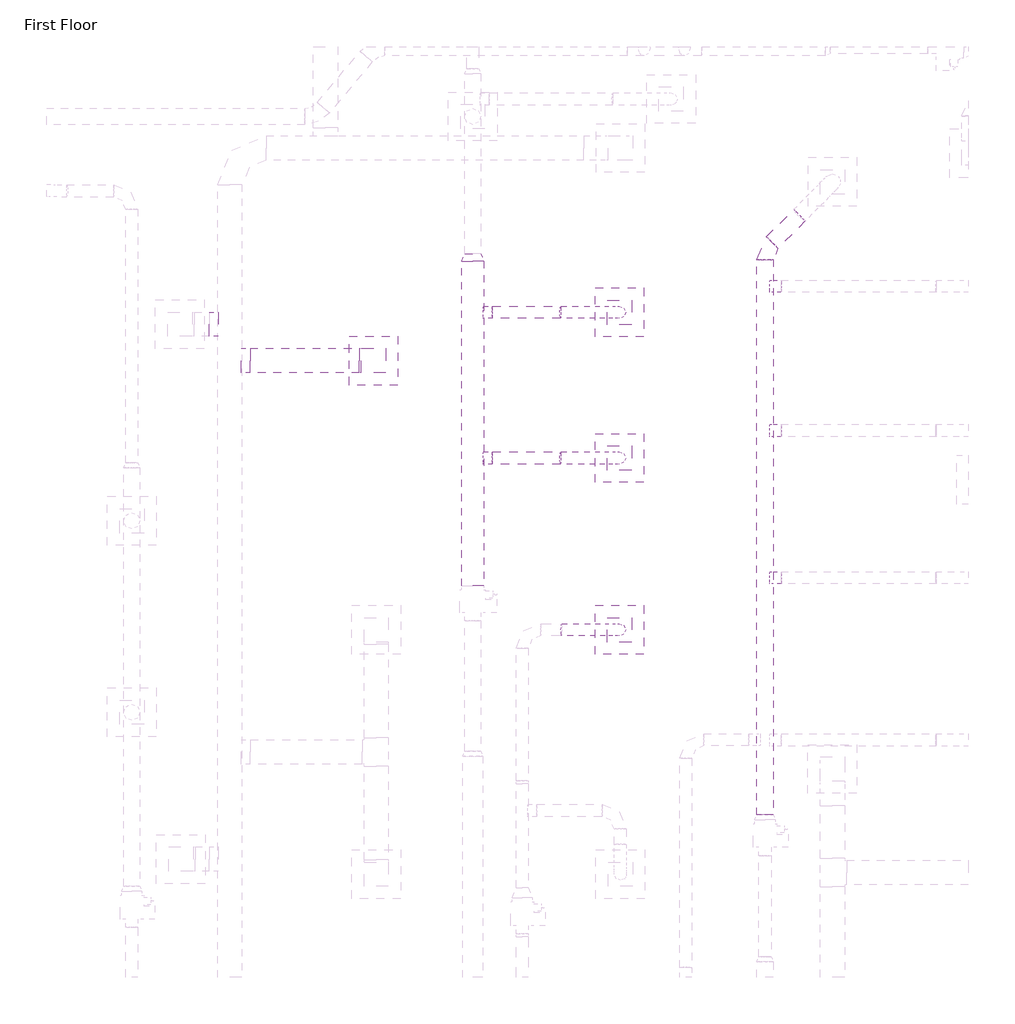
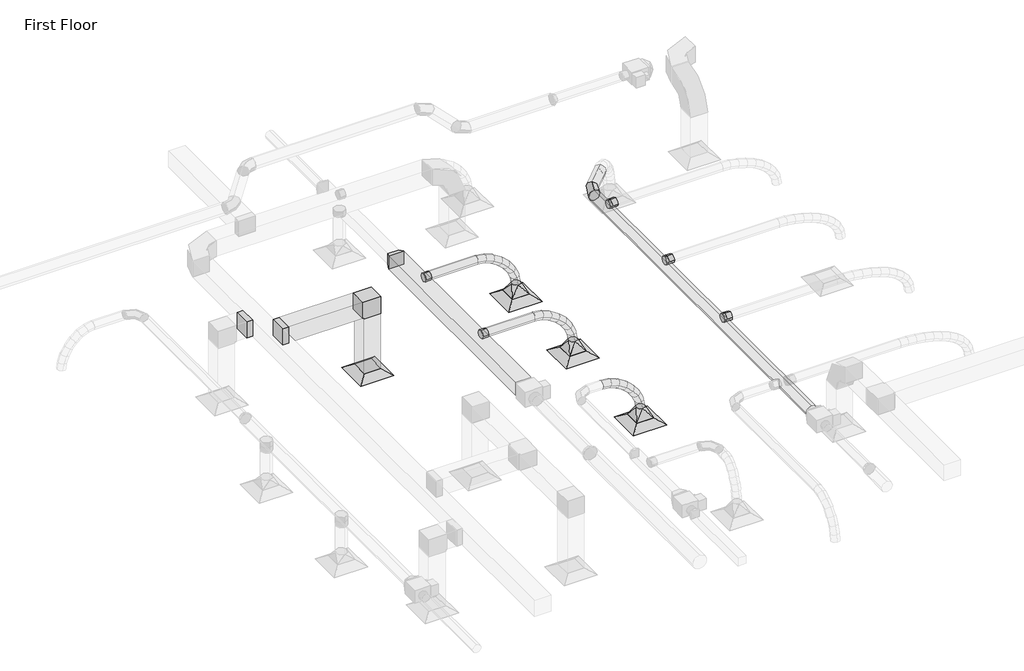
# One storey, part 27 of 61: 13 duct fittings, 10 duct segments, 4 air terminals.
"""IFC4 building model written with IfcOpenShell, lengths in millimetres."""

from ifc_helpers import new_model, si_unit, point, frame, frame_2d, origin, place, context, project, spatial, polyline, circle_curve, ellipse_curve, trimmed, segment, composite_curve, outline, extrude, transform, mapped, element, save
from ifc_brep_helpers import plane_surface, cylinder_surface, advanced_brep
from components import m_exhaust_grill_er_600_x_600_face_300_x_300_connection_ff221211, m_rectangular_elbow_mitered_standard_8eee5933, m_rectangular_takeoff_standard_c00386d1, m_rectangular_takeoff_standard_b44bfa45, m_rectangular_transition_angle_45_degree_9cf3db8e, m_rectangular_to_round_transition_angle_45_degree_8f201c83, m_round_elbow_1_5_d_f3829448, m_round_takeoff_standard_d02f3bf7, m_round_takeoff_standard_bf54a221

model = new_model("IFC4")

# Units and contexts
model_context = context("Model", 3, world=origin())
ifc_project = project(units=[si_unit("LENGTHUNIT", "METRE", prefix="MILLI")], contexts=[model_context])

# Site, building, storey
site = spatial("IfcSite", under=ifc_project)
building = spatial("IfcBuilding", under=site)
storey = spatial("IfcBuildingStorey", under=building, Name="First Floor", Elevation=0.0)

# Air terminals
placement = place(None, origin())
m_exhaust_grill_er_600_x_600_face_300_x_300_connection_shape = m_exhaust_grill_er_600_x_600_face_300_x_300_connection_ff221211(model_context)
element("IfcAirTerminal", 1, ObjectType="M_Return Register : RR-600 x 600 Face 300 x 300 Connection", at=placement, inside=storey, context=model_context, shape_type="MappedRepresentation", body=[
    mapped(m_exhaust_grill_er_600_x_600_face_300_x_300_connection_shape, transform((-13898.3480569, 21856.6472724, 2680.0), x_axis=(1.0, 0.0, 0.0), y_axis=(0.0, 1.0, 0.0), z_axis=(0.0, 0.0, 1.0))),
])
element("IfcAirTerminal", 2, ObjectType="M_Supply Diffuser : SD-600 x 600 Face 300 x 300 Connection", at=placement, inside=storey, context=model_context, shape_type="MappedRepresentation", body=[
    mapped(m_exhaust_grill_er_600_x_600_face_300_x_300_connection_shape, transform((-10877.5734417, 22450.6479697, 2680.0), x_axis=(1.0, 0.0, 0.0), y_axis=(0.0, 1.0, 0.0), z_axis=(0.0, 0.0, 1.0))),
])
element("IfcAirTerminal", 3, ObjectType="M_Supply Diffuser : SD-600 x 600 Face 300 x 300 Connection", at=placement, inside=storey, context=model_context, shape_type="MappedRepresentation", body=[
    mapped(m_exhaust_grill_er_600_x_600_face_300_x_300_connection_shape, transform((-10877.5734417, 20661.4636251, 2680.0), x_axis=(1.0, 0.0, 0.0), y_axis=(0.0, 1.0, 0.0), z_axis=(0.0, 0.0, 1.0))),
])
element("IfcAirTerminal", 4, ObjectType="M_Supply Diffuser : SD-600 x 600 Face 300 x 300 Connection", at=placement, inside=storey, context=model_context, shape_type="MappedRepresentation", body=[
    mapped(m_exhaust_grill_er_600_x_600_face_300_x_300_connection_shape, transform((-10877.5734417, 18551.0725928, 2680.0), x_axis=(1.0, 0.0, 0.0), y_axis=(0.0, 1.0, 0.0), z_axis=(0.0, 0.0, 1.0))),
])

# Duct fittings
m_rectangular_elbow_mitered_standard_shape = m_rectangular_elbow_mitered_standard_8eee5933(model_context)
element("IfcDuctFitting", 5, ObjectType="M_Rectangular Elbow - Mitered : Standard", at=placement, inside=storey, context=model_context, shape_type="MappedRepresentation", body=[
    mapped(m_rectangular_elbow_mitered_standard_shape, transform((-13898.3480569, 21856.6472724, 4000.0), x_axis=(0.0, 0.0, 1.0), y_axis=(-1.0, 0.0, 0.0), z_axis=(0.0, -1.0, 0.0))),
])
m_rectangular_takeoff_standard_shape = m_rectangular_takeoff_standard_c00386d1(model_context)
element("IfcDuctFitting", 6, ObjectType="M_Rectangular Takeoff : Standard", at=placement, inside=storey, context=model_context, shape_type="MappedRepresentation", body=[
    mapped(m_rectangular_takeoff_standard_shape, transform((-15515.3877031, 21856.6472724, 4000.0), x_axis=(1.0, 0.0, 0.0), y_axis=(0.0, -1.0, 0.0), z_axis=(0.0, 0.0, -1.0))),
])
m_rectangular_takeoff_standard_2_shape = m_rectangular_takeoff_standard_b44bfa45(model_context)
element("IfcDuctFitting", 7, ObjectType="M_Rectangular Takeoff : Standard", at=placement, inside=storey, context=model_context, shape_type="MappedRepresentation", body=[
    mapped(m_rectangular_takeoff_standard_2_shape, transform((-15815.3877031, 22304.5020999, 4000.0), x_axis=(-1.0, 0.0, 0.0), y_axis=(0.0, 1.0, 0.0), z_axis=(0.0, 0.0, -1.0))),
])
m_rectangular_transition_angle_45_degree_shape = m_rectangular_transition_angle_45_degree_9cf3db8e(model_context)
element("IfcDuctFitting", 8, ObjectType="M_Rectangular Transition - Angle : 45 Degree", at=placement, inside=storey, context=model_context, shape_type="MappedRepresentation", body=[
    mapped(m_rectangular_transition_angle_45_degree_shape, transform((-12680.2492424, 23170.3926667, 3644.1), x_axis=(0.0, -1.0, 0.0), y_axis=(1.0, 0.0, 0.0), z_axis=(0.0, 0.0, 1.0))),
])
m_rectangular_to_round_transition_angle_45_degree_shape = m_rectangular_to_round_transition_angle_45_degree_8f201c83(model_context)
element("IfcDuctFitting", 9, ObjectType="M_Rectangular to Round Transition - Angle : 45 Degree", at=placement, inside=storey, context=model_context, shape_type="MappedRepresentation", body=[
    mapped(m_rectangular_to_round_transition_angle_45_degree_shape, transform((-10877.5734417, 18551.0725928, 2781.6), x_axis=(0.0, 0.0, 1.0), y_axis=(1.0, 0.0, 0.0), z_axis=(0.0, 1.0, 0.0))),
])
element("IfcDuctFitting", 10, ObjectType="M_Rectangular to Round Transition - Angle : 45 Degree", at=placement, inside=storey, context=model_context, shape_type="MappedRepresentation", body=[
    mapped(m_rectangular_to_round_transition_angle_45_degree_shape, transform((-10877.5734417, 20661.4636251, 2781.6), x_axis=(0.0, 0.0, 1.0), y_axis=(1.0, 0.0, 0.0), z_axis=(0.0, 1.0, 0.0))),
])
element("IfcDuctFitting", 11, ObjectType="M_Rectangular to Round Transition - Angle : 45 Degree", at=placement, inside=storey, context=model_context, shape_type="MappedRepresentation", body=[
    mapped(m_rectangular_to_round_transition_angle_45_degree_shape, transform((-10877.5734417, 22450.6479697, 2781.6), x_axis=(0.0, 0.0, 1.0), y_axis=(1.0, 0.0, 0.0), z_axis=(0.0, 1.0, 0.0))),
])
m_round_elbow_1_5_d_shape = m_round_elbow_1_5_d_f3829448(model_context)
element("IfcDuctFitting", 12, ObjectType="M_Round Elbow : 1.5 D", at=placement, inside=storey, context=model_context, shape_type="MappedRepresentation", body=[
    mapped(m_round_elbow_1_5_d_shape, transform((-9089.2747853, 23220.4514222, 3619.1), x_axis=(-0.7071067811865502, -0.7071067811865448, 0.0), y_axis=(0.7071067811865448, -0.7071067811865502, 0.0), z_axis=(0.0, 0.0, 1.0))),
])
m_round_takeoff_standard_shape = m_round_takeoff_standard_d02f3bf7(model_context)
element("IfcDuctFitting", 13, ObjectType="M_Round Takeoff : Standard", at=placement, inside=storey, context=model_context, shape_type="MappedRepresentation", body=[
    mapped(m_round_takeoff_standard_shape, transform((-12542.7492424, 22450.6479697, 3644.1), x_axis=(1.0, 0.0, 0.0), y_axis=(0.0, -1.0, 0.0), z_axis=(0.0, 0.0, -1.0))),
])
element("IfcDuctFitting", 14, ObjectType="M_Round Takeoff : Standard", at=placement, inside=storey, context=model_context, shape_type="MappedRepresentation", body=[
    mapped(m_round_takeoff_standard_shape, transform((-12542.7492424, 20661.4636251, 3644.1), x_axis=(1.0, 0.0, 0.0), y_axis=(0.0, -1.0, 0.0), z_axis=(0.0, 0.0, -1.0))),
])
m_round_takeoff_standard_2_shape = m_round_takeoff_standard_bf54a221(model_context)
element("IfcDuctFitting", 15, ObjectType="M_Round Takeoff : Standard", at=placement, inside=storey, context=model_context, shape_type="MappedRepresentation", body=[
    mapped(m_round_takeoff_standard_2_shape, transform((-8989.2747853, 22770.9660121, 3619.1), x_axis=(1.0, 0.0, 0.0), y_axis=(0.0, -1.0, 0.0), z_axis=(0.0, 0.0, -1.0))),
])
element("IfcDuctFitting", 16, ObjectType="M_Round Takeoff : Standard", at=placement, inside=storey, context=model_context, shape_type="MappedRepresentation", body=[
    mapped(m_round_takeoff_standard_2_shape, transform((-8989.2747853, 20999.3260792, 3619.1), x_axis=(1.0, 0.0, 0.0), y_axis=(0.0, -1.0, 0.0), z_axis=(0.0, 0.0, -1.0))),
])
element("IfcDuctFitting", 17, ObjectType="M_Round Takeoff : Standard", at=placement, inside=storey, context=model_context, shape_type="MappedRepresentation", body=[
    mapped(m_round_takeoff_standard_2_shape, transform((-8989.2747853, 19189.4526186, 3619.1), x_axis=(1.0, 0.0, 0.0), y_axis=(0.0, -1.0, 0.0), z_axis=(0.0, 0.0, -1.0))),
])

# Duct segments
element("IfcDuctSegment", 18, ObjectType="Flex - Round", at=placement, inside=storey, context=model_context, shape_type="AdvancedBrep", body=[
    advanced_brep(
    [(-11587.2823647, 18626.0725928, 3619.1), (-11597.5475026, 18551.0725928, 3544.8058081), (-11587.2823647, 18476.0725928, 3619.1), (-11577.0172268, 18551.0725928, 3693.3941919), (-11446.5032885, 18626.0725928, 3599.6487267), (-11465.3793471, 18551.0725928, 3526.5442953), (-11446.5032885, 18476.0725928, 3599.6487267), (-11427.6272298, 18551.0725928, 3672.7531581), (-10877.5734417, 18626.0725928, 2962.6660172), (-10803.5449387, 18551.0725928, 2974.6985039), (-10877.5734417, 18476.0725928, 2962.6660172), (-10951.6019448, 18551.0725928, 2950.6335304), (-11305.6573951, 18626.0725928, 3545.3313478), (-11339.3317078, 18551.0725928, 3477.9338798), (-11305.6573951, 18476.0725928, 3545.3313478), (-11271.9830825, 18551.0725928, 3612.7288157), (-11172.6631924, 18626.0725928, 3462.2025246), (-11218.0262496, 18551.0725928, 3402.1111764), (-11172.6631924, 18476.0725928, 3462.2025246), (-11127.3001353, 18551.0725928, 3522.2938727), (-11055.439188, 18626.0725928, 3356.3169185), (-11110.858308, 18551.0725928, 3305.3089685), (-11055.439188, 18476.0725928, 3356.3169185), (-11000.0200681, 18551.0725928, 3407.3248685), (-10961.9038897, 18626.0725928, 3233.729191), (-11026.4778149, 18551.0725928, 3194.7195645), (-10961.9038897, 18476.0725928, 3233.729191), (-10897.3299645, 18551.0725928, 3272.7388175), (-10899.975805, 18626.0725928, 3100.4940034), (-10972.3456744, 18551.0725928, 3078.2569623), (-10899.975805, 18476.0725928, 3100.4940034), (-10827.6059356, 18551.0725928, 3122.7310446)],
    [
        (0, 1, circle_curve(frame((-11587.2823647, 18551.0725928, 3619.1), z_axis=(-0.9905892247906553, 0.0, 0.13686850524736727), x_axis=(0.0, 1.0, 0.0)), 75.0)),
        (1, 2, circle_curve(frame((-11587.2823647, 18551.0725928, 3619.1), z_axis=(-0.9905892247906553, 0.0, 0.13686850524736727), x_axis=(0.0, 1.0, 0.0)), 75.0)),
        (2, 3, circle_curve(frame((-11587.2823647, 18551.0725928, 3619.1), z_axis=(-0.9905892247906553, 0.0, 0.13686850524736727), x_axis=(0.0, 1.0, 0.0)), 75.0)),
        (3, 0, circle_curve(frame((-11587.2823647, 18551.0725928, 3619.1), z_axis=(-0.9905892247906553, 0.0, 0.13686850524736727), x_axis=(0.0, 1.0, 0.0)), 75.0)),
        (0, 4),
        (4, 5, ellipse_curve(frame((-11446.5032885, 18551.0725928, 3599.6487267), z_axis=(-0.9682439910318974, 0.0, 0.2500071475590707), x_axis=(-0.2500071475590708, 0.0, -0.9682439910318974)), 75.502076, 75.0)),
        (5, 1),
        (5, 6, ellipse_curve(frame((-11446.5032885, 18551.0725928, 3599.6487267), z_axis=(-0.9682439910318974, 0.0, 0.2500071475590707), x_axis=(-0.2500071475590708, 0.0, -0.9682439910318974)), 75.502076, 75.0)),
        (6, 2),
        (6, 7, ellipse_curve(frame((-11446.5032885, 18551.0725928, 3599.6487267), z_axis=(-0.9682439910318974, 0.0, 0.2500071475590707), x_axis=(-0.2500071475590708, 0.0, -0.9682439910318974)), 75.502076, 75.0)),
        (7, 3),
        (7, 4, ellipse_curve(frame((-11446.5032885, 18551.0725928, 3599.6487267), z_axis=(-0.9682439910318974, 0.0, 0.2500071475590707), x_axis=(-0.2500071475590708, 0.0, -0.9682439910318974)), 75.502076, 75.0)),
        (8, 9, circle_curve(frame((-10877.5734417, 18551.0725928, 2962.6660172), z_axis=(0.16043315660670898, 0.0, -0.9870467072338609), x_axis=(0.0, 1.0, 0.0)), 75.0)),
        (9, 10, circle_curve(frame((-10877.5734417, 18551.0725928, 2962.6660172), z_axis=(0.16043315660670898, 0.0, -0.9870467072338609), x_axis=(0.0, 1.0, 0.0)), 75.0)),
        (10, 11, circle_curve(frame((-10877.5734417, 18551.0725928, 2962.6660172), z_axis=(0.16043315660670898, 0.0, -0.9870467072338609), x_axis=(0.0, 1.0, 0.0)), 75.0)),
        (11, 8, circle_curve(frame((-10877.5734417, 18551.0725928, 2962.6660172), z_axis=(0.16043315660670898, 0.0, -0.9870467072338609), x_axis=(0.0, 1.0, 0.0)), 75.0)),
        (4, 12),
        (12, 13, ellipse_curve(frame((-11305.6573951, 18551.0725928, 3545.3313478), z_axis=(-0.8945568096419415, 0.0, 0.44695426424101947), x_axis=(-0.4469542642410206, 0.0, -0.8945568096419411)), 75.3417415, 75.0)),
        (13, 5),
        (13, 14, ellipse_curve(frame((-11305.6573951, 18551.0725928, 3545.3313478), z_axis=(-0.8945568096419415, 0.0, 0.44695426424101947), x_axis=(-0.4469542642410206, 0.0, -0.8945568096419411)), 75.3417415, 75.0)),
        (14, 6),
        (14, 15, ellipse_curve(frame((-11305.6573951, 18551.0725928, 3545.3313478), z_axis=(-0.8945568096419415, 0.0, 0.44695426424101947), x_axis=(-0.4469542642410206, 0.0, -0.8945568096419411)), 75.3417415, 75.0)),
        (15, 7),
        (15, 12, ellipse_curve(frame((-11305.6573951, 18551.0725928, 3545.3313478), z_axis=(-0.8945568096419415, 0.0, 0.44695426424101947), x_axis=(-0.4469542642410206, 0.0, -0.8945568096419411)), 75.3417415, 75.0)),
        (12, 16),
        (16, 17, ellipse_curve(frame((-11172.6631924, 18551.0725928, 3462.2025246), z_axis=(-0.7981182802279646, 0.0, 0.6025007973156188), x_axis=(-0.6025007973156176, 0.0, -0.7981182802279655)), 75.2912816, 75.0)),
        (17, 13),
        (17, 18, ellipse_curve(frame((-11172.6631924, 18551.0725928, 3462.2025246), z_axis=(-0.7981182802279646, 0.0, 0.6025007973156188), x_axis=(-0.6025007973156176, 0.0, -0.7981182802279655)), 75.2912816, 75.0)),
        (18, 14),
        (18, 19, ellipse_curve(frame((-11172.6631924, 18551.0725928, 3462.2025246), z_axis=(-0.7981182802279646, 0.0, 0.6025007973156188), x_axis=(-0.6025007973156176, 0.0, -0.7981182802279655)), 75.2912816, 75.0)),
        (19, 15),
        (19, 16, ellipse_curve(frame((-11172.6631924, 18551.0725928, 3462.2025246), z_axis=(-0.7981182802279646, 0.0, 0.6025007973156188), x_axis=(-0.6025007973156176, 0.0, -0.7981182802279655)), 75.2912816, 75.0)),
        (16, 20),
        (20, 21, ellipse_curve(frame((-11055.439188, 18551.0725928, 3356.3169185), z_axis=(-0.677217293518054, 0.0, 0.7357830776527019), x_axis=(-0.7357830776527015, 0.0, -0.6772172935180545)), 75.3199165, 75.0)),
        (21, 17),
        (21, 22, ellipse_curve(frame((-11055.439188, 18551.0725928, 3356.3169185), z_axis=(-0.677217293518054, 0.0, 0.7357830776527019), x_axis=(-0.7357830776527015, 0.0, -0.6772172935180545)), 75.3199165, 75.0)),
        (22, 18),
        (22, 23, ellipse_curve(frame((-11055.439188, 18551.0725928, 3356.3169185), z_axis=(-0.677217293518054, 0.0, 0.7357830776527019), x_axis=(-0.7357830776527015, 0.0, -0.6772172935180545)), 75.3199165, 75.0)),
        (23, 19),
        (23, 20, ellipse_curve(frame((-11055.439188, 18551.0725928, 3356.3169185), z_axis=(-0.677217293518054, 0.0, 0.7357830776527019), x_axis=(-0.7357830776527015, 0.0, -0.6772172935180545)), 75.3199165, 75.0)),
        (20, 24),
        (24, 25, ellipse_curve(frame((-10961.9038897, 18551.0725928, 3233.729191), z_axis=(-0.5170788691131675, 0.0, 0.8559377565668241), x_axis=(-0.8559377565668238, 0.0, -0.5170788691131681)), 75.4423142, 75.0)),
        (25, 21),
        (25, 26, ellipse_curve(frame((-10961.9038897, 18551.0725928, 3233.729191), z_axis=(-0.5170788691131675, 0.0, 0.8559377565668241), x_axis=(-0.8559377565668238, 0.0, -0.5170788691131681)), 75.4423142, 75.0)),
        (26, 22),
        (26, 27, ellipse_curve(frame((-10961.9038897, 18551.0725928, 3233.729191), z_axis=(-0.5170788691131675, 0.0, 0.8559377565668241), x_axis=(-0.8559377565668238, 0.0, -0.5170788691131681)), 75.4423142, 75.0)),
        (27, 23),
        (27, 24, ellipse_curve(frame((-10961.9038897, 18551.0725928, 3233.729191), z_axis=(-0.5170788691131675, 0.0, 0.8559377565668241), x_axis=(-0.8559377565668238, 0.0, -0.5170788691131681)), 75.4423142, 75.0)),
        (24, 28),
        (28, 29, ellipse_curve(frame((-10899.975805, 18551.0725928, 3100.4940034), z_axis=(-0.2937164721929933, 0.0, 0.9558925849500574), x_axis=(-0.9558925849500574, 0.0, -0.29371647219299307)), 75.7092068, 75.0)),
        (29, 25),
        (29, 30, ellipse_curve(frame((-10899.975805, 18551.0725928, 3100.4940034), z_axis=(-0.2937164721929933, 0.0, 0.9558925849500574), x_axis=(-0.9558925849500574, 0.0, -0.29371647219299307)), 75.7092068, 75.0)),
        (30, 26),
        (30, 31, ellipse_curve(frame((-10899.975805, 18551.0725928, 3100.4940034), z_axis=(-0.2937164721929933, 0.0, 0.9558925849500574), x_axis=(-0.9558925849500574, 0.0, -0.29371647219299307)), 75.7092068, 75.0)),
        (31, 27),
        (31, 28, ellipse_curve(frame((-10899.975805, 18551.0725928, 3100.4940034), z_axis=(-0.2937164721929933, 0.0, 0.9558925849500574), x_axis=(-0.9558925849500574, 0.0, -0.29371647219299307)), 75.7092068, 75.0)),
        (28, 8),
        (11, 29),
        (10, 30),
        (9, 31),
    ],
    [
        plane_surface(frame((-11587.2823647, 18626.0725928, 3619.1), z_axis=(-0.9905892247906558, 0.0, 0.13686850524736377), x_axis=(0.13686850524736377, 0.0, 0.9905892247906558))),
        cylinder_surface(frame((-11587.2823647, 18551.0725928, 3619.1), z_axis=(-0.9905892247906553, 0.0, 0.13686850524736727), x_axis=(0.0, 1.0, 0.0)), 75.0),
        plane_surface(frame((-10877.5734417, 18626.0725928, 2962.6660172), z_axis=(0.1604331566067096, 0.0, -0.9870467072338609), x_axis=(0.9870467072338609, 0.0, 0.1604331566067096))),
        cylinder_surface(frame((-11446.5032885, 18551.0725928, 3599.6487267), z_axis=(-0.9330214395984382, 0.0, 0.3598207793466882), x_axis=(0.0, 1.0, 0.0)), 75.0),
        cylinder_surface(frame((-11305.6573951, 18551.0725928, 3545.3313478), z_axis=(-0.8479769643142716, 0.0, 0.5300330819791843), x_axis=(0.0, 1.0, 0.0)), 75.0),
        cylinder_surface(frame((-11172.6631924, 18551.0725928, 3462.2025246), z_axis=(-0.7420841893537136, 0.0, 0.6703066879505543), x_axis=(0.0, 1.0, 0.0)), 75.0),
        cylinder_surface(frame((-11055.439188, 18551.0725928, 3356.3169185), z_axis=(-0.6065975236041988, 0.0, 0.7950090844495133), x_axis=(0.0, 1.0, 0.0)), 75.0),
        cylinder_surface(frame((-10961.9038897, 18551.0725928, 3233.729191), z_axis=(-0.4214970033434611, 0.0, 0.9068297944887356), x_axis=(0.0, 1.0, 0.0)), 75.0),
        cylinder_surface(frame((-10899.975805, 18551.0725928, 3100.4940034), z_axis=(-0.16043315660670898, 0.0, 0.9870467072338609), x_axis=(0.0, 1.0, 0.0)), 75.0),
    ],
    [
        (0, [[1, 2, 3, 4]]),
        (1, [[-1, 5, 6, 7]]),
        (1, [[-2, -7, 8, 9]]),
        (1, [[-3, -9, 10, 11]]),
        (1, [[-4, -11, 12, -5]]),
        (2, [[13, 14, 15, 16]]),
        (3, [[-6, 17, 18, 19]]),
        (3, [[-8, -19, 20, 21]]),
        (3, [[-10, -21, 22, 23]]),
        (3, [[-12, -23, 24, -17]]),
        (4, [[-18, 25, 26, 27]]),
        (4, [[-20, -27, 28, 29]]),
        (4, [[-22, -29, 30, 31]]),
        (4, [[-24, -31, 32, -25]]),
        (5, [[-26, 33, 34, 35]]),
        (5, [[-28, -35, 36, 37]]),
        (5, [[-30, -37, 38, 39]]),
        (5, [[-32, -39, 40, -33]]),
        (6, [[-34, 41, 42, 43]]),
        (6, [[-36, -43, 44, 45]]),
        (6, [[-38, -45, 46, 47]]),
        (6, [[-40, -47, 48, -41]]),
        (7, [[-42, 49, 50, 51]]),
        (7, [[-44, -51, 52, 53]]),
        (7, [[-46, -53, 54, 55]]),
        (7, [[-48, -55, 56, -49]]),
        (8, [[-50, 57, -16, 58]]),
        (8, [[-52, -58, -15, 59]]),
        (8, [[-54, -59, -14, 60]]),
        (8, [[-56, -60, -13, -57]]),
    ],
),
])
element("IfcDuctSegment", 19, ObjectType="Flex - Round", at=placement, inside=storey, context=model_context, shape_type="AdvancedBrep", body=[
    advanced_brep(
    [(-11600.2492424, 20736.4636251, 3644.1), (-11610.7347685, 20661.4636251, 3569.8365922), (-11600.2492424, 20586.4636251, 3644.1), (-11589.7637164, 20661.4636251, 3718.3634078), (-11455.9662838, 20736.4636251, 3623.7281538), (-11475.2555296, 20661.4636251, 3550.7077758), (-11455.9662838, 20586.4636251, 3623.7281538), (-11436.677038, 20661.4636251, 3696.7485318), (-10877.5734417, 20736.4636251, 2962.6660172), (-10803.510245, 20661.4636251, 2974.4830764), (-10877.5734417, 20586.4636251, 2962.6660172), (-10951.6366385, 20661.4636251, 2950.848958), (-11312.1846903, 20736.4636251, 3566.9226354), (-11346.5221294, 20661.4636251, 3499.8475276), (-11312.1846903, 20586.4636251, 3566.9226354), (-11277.8472512, 20661.4636251, 3633.9977432), (-11176.8123545, 20736.4636251, 3480.148475), (-11222.8927562, 20661.4636251, 3420.600649), (-11176.8123545, 20586.4636251, 3480.148475), (-11130.7319528, 20661.4636251, 3539.696301), (-11057.7571691, 20736.4636251, 3369.8707027), (-11113.7846087, 20661.4636251, 3319.5365634), (-11057.7571691, 20586.4636251, 3369.8707027), (-11001.7297295, 20661.4636251, 3420.204842), (-10962.9270268, 20736.4636251, 3242.5543489), (-11027.8751645, 20661.4636251, 3204.1968948), (-10962.9270268, 20586.4636251, 3242.5543489), (-10897.978889, 20661.4636251, 3280.911803), (-10900.2298201, 20736.4636251, 3104.6644436), (-10972.6968114, 20661.4636251, 3082.8431969), (-10900.2298201, 20586.4636251, 3104.6644436), (-10827.7628288, 20661.4636251, 3126.4856904)],
    [
        (0, 1, circle_curve(frame((-11600.2492424, 20661.4636251, 3644.1), z_axis=(-0.9901787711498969, 0.0, 0.1398070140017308), x_axis=(0.0, 1.0, 0.0)), 75.0)),
        (1, 2, circle_curve(frame((-11600.2492424, 20661.4636251, 3644.1), z_axis=(-0.9901787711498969, 0.0, 0.1398070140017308), x_axis=(0.0, 1.0, 0.0)), 75.0)),
        (2, 3, circle_curve(frame((-11600.2492424, 20661.4636251, 3644.1), z_axis=(-0.9901787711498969, 0.0, 0.1398070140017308), x_axis=(0.0, 1.0, 0.0)), 75.0)),
        (3, 0, circle_curve(frame((-11600.2492424, 20661.4636251, 3644.1), z_axis=(-0.9901787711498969, 0.0, 0.1398070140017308), x_axis=(0.0, 1.0, 0.0)), 75.0)),
        (0, 4),
        (4, 5, ellipse_curve(frame((-11455.9662838, 20661.4636251, 3623.7281538), z_axis=(-0.9668350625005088, 0.0, 0.25540156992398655), x_axis=(-0.25540156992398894, 0.0, -0.9668350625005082)), 75.5251654, 75.0)),
        (5, 1),
        (5, 6, ellipse_curve(frame((-11455.9662838, 20661.4636251, 3623.7281538), z_axis=(-0.9668350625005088, 0.0, 0.25540156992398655), x_axis=(-0.25540156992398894, 0.0, -0.9668350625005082)), 75.5251654, 75.0)),
        (6, 2),
        (6, 7, ellipse_curve(frame((-11455.9662838, 20661.4636251, 3623.7281538), z_axis=(-0.9668350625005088, 0.0, 0.25540156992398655), x_axis=(-0.25540156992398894, 0.0, -0.9668350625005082)), 75.5251654, 75.0)),
        (7, 3),
        (7, 4, ellipse_curve(frame((-11455.9662838, 20661.4636251, 3623.7281538), z_axis=(-0.9668350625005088, 0.0, 0.25540156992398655), x_axis=(-0.25540156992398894, 0.0, -0.9668350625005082)), 75.5251654, 75.0)),
        (8, 9, circle_curve(frame((-10877.5734417, 20661.4636251, 2962.6660172), z_axis=(0.15756078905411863, 0.0, -0.9875092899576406), x_axis=(0.0, 1.0, 0.0)), 75.0)),
        (9, 10, circle_curve(frame((-10877.5734417, 20661.4636251, 2962.6660172), z_axis=(0.15756078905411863, 0.0, -0.9875092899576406), x_axis=(0.0, 1.0, 0.0)), 75.0)),
        (10, 11, circle_curve(frame((-10877.5734417, 20661.4636251, 2962.6660172), z_axis=(0.15756078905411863, 0.0, -0.9875092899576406), x_axis=(0.0, 1.0, 0.0)), 75.0)),
        (11, 8, circle_curve(frame((-10877.5734417, 20661.4636251, 2962.6660172), z_axis=(0.15756078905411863, 0.0, -0.9875092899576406), x_axis=(0.0, 1.0, 0.0)), 75.0)),
        (4, 12),
        (12, 13, ellipse_curve(frame((-11312.1846903, 20661.4636251, 3566.9226354), z_axis=(-0.8901408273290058, 0.0, 0.45568553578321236), x_axis=(-0.45568553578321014, 0.0, -0.8901408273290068)), 75.3533663, 75.0)),
        (13, 5),
        (13, 14, ellipse_curve(frame((-11312.1846903, 20661.4636251, 3566.9226354), z_axis=(-0.8901408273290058, 0.0, 0.45568553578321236), x_axis=(-0.45568553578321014, 0.0, -0.8901408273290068)), 75.3533663, 75.0)),
        (14, 6),
        (14, 15, ellipse_curve(frame((-11312.1846903, 20661.4636251, 3566.9226354), z_axis=(-0.8901408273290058, 0.0, 0.45568553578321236), x_axis=(-0.45568553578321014, 0.0, -0.8901408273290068)), 75.3533663, 75.0)),
        (15, 7),
        (15, 12, ellipse_curve(frame((-11312.1846903, 20661.4636251, 3566.9226354), z_axis=(-0.8901408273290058, 0.0, 0.45568553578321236), x_axis=(-0.45568553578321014, 0.0, -0.8901408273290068)), 75.3533663, 75.0)),
        (12, 16),
        (16, 17, ellipse_curve(frame((-11176.8123545, 20661.4636251, 3480.148475), z_axis=(-0.7908595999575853, 0.0, 0.6119976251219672), x_axis=(-0.6119976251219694, 0.0, -0.7908595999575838)), 75.2950662, 75.0)),
        (17, 13),
        (17, 18, ellipse_curve(frame((-11176.8123545, 20661.4636251, 3480.148475), z_axis=(-0.7908595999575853, 0.0, 0.6119976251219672), x_axis=(-0.6119976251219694, 0.0, -0.7908595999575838)), 75.2950662, 75.0)),
        (18, 14),
        (18, 19, ellipse_curve(frame((-11176.8123545, 20661.4636251, 3480.148475), z_axis=(-0.7908595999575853, 0.0, 0.6119976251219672), x_axis=(-0.6119976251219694, 0.0, -0.7908595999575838)), 75.2950662, 75.0)),
        (19, 15),
        (19, 16, ellipse_curve(frame((-11176.8123545, 20661.4636251, 3480.148475), z_axis=(-0.7908595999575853, 0.0, 0.6119976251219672), x_axis=(-0.6119976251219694, 0.0, -0.7908595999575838)), 75.2950662, 75.0)),
        (16, 20),
        (20, 21, ellipse_curve(frame((-11057.7571691, 20661.4636251, 3369.8707027), z_axis=(-0.6683001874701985, 0.0, 0.7438916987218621), x_axis=(-0.7438916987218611, 0.0, -0.6683001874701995)), 75.3166619, 75.0)),
        (21, 17),
        (21, 22, ellipse_curve(frame((-11057.7571691, 20661.4636251, 3369.8707027), z_axis=(-0.6683001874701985, 0.0, 0.7438916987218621), x_axis=(-0.7438916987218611, 0.0, -0.6683001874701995)), 75.3166619, 75.0)),
        (22, 18),
        (22, 23, ellipse_curve(frame((-11057.7571691, 20661.4636251, 3369.8707027), z_axis=(-0.6683001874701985, 0.0, 0.7438916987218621), x_axis=(-0.7438916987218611, 0.0, -0.6683001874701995)), 75.3166619, 75.0)),
        (23, 19),
        (23, 20, ellipse_curve(frame((-11057.7571691, 20661.4636251, 3369.8707027), z_axis=(-0.6683001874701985, 0.0, 0.7438916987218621), x_axis=(-0.7438916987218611, 0.0, -0.6683001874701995)), 75.3166619, 75.0)),
        (20, 24),
        (24, 25, ellipse_curve(frame((-10962.9270268, 20661.4636251, 3242.5543489), z_axis=(-0.5085230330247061, 0.0, 0.861048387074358), x_axis=(-0.8610483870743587, 0.0, -0.5085230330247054)), 75.4291381, 75.0)),
        (25, 21),
        (25, 26, ellipse_curve(frame((-10962.9270268, 20661.4636251, 3242.5543489), z_axis=(-0.5085230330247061, 0.0, 0.861048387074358), x_axis=(-0.8610483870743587, 0.0, -0.5085230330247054)), 75.4291381, 75.0)),
        (26, 22),
        (26, 27, ellipse_curve(frame((-10962.9270268, 20661.4636251, 3242.5543489), z_axis=(-0.5085230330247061, 0.0, 0.861048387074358), x_axis=(-0.8610483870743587, 0.0, -0.5085230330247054)), 75.4291381, 75.0)),
        (27, 23),
        (27, 24, ellipse_curve(frame((-10962.9270268, 20661.4636251, 3242.5543489), z_axis=(-0.5085230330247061, 0.0, 0.861048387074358), x_axis=(-0.8610483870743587, 0.0, -0.5085230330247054)), 75.4291381, 75.0)),
        (24, 28),
        (28, 29, ellipse_curve(frame((-10900.2298201, 20661.4636251, 3104.6644436), z_axis=(-0.28833145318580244, 0.0, 0.9575306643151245), x_axis=(-0.9575306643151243, 0.0, -0.28833145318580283)), 75.6811181, 75.0)),
        (29, 25),
        (29, 30, ellipse_curve(frame((-10900.2298201, 20661.4636251, 3104.6644436), z_axis=(-0.28833145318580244, 0.0, 0.9575306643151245), x_axis=(-0.9575306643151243, 0.0, -0.28833145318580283)), 75.6811181, 75.0)),
        (30, 26),
        (30, 31, ellipse_curve(frame((-10900.2298201, 20661.4636251, 3104.6644436), z_axis=(-0.28833145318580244, 0.0, 0.9575306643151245), x_axis=(-0.9575306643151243, 0.0, -0.28833145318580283)), 75.6811181, 75.0)),
        (31, 27),
        (31, 28, ellipse_curve(frame((-10900.2298201, 20661.4636251, 3104.6644436), z_axis=(-0.28833145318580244, 0.0, 0.9575306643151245), x_axis=(-0.9575306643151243, 0.0, -0.28833145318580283)), 75.6811181, 75.0)),
        (28, 8),
        (11, 29),
        (10, 30),
        (9, 31),
    ],
    [
        plane_surface(frame((-11600.2492424, 20736.4636251, 3644.1), z_axis=(-0.9901787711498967, 0.0, 0.13980701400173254), x_axis=(0.13980701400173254, 0.0, 0.9901787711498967))),
        cylinder_surface(frame((-11600.2492424, 20661.4636251, 3644.1), z_axis=(-0.9901787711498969, 0.0, 0.1398070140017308), x_axis=(0.0, 1.0, 0.0)), 75.0),
        plane_surface(frame((-10877.5734417, 20736.4636251, 2962.6660172), z_axis=(0.15756078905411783, 0.0, -0.9875092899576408), x_axis=(0.9875092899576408, 0.0, 0.15756078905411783))),
        cylinder_surface(frame((-11455.9662838, 20661.4636251, 3623.7281538), z_axis=(-0.930045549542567, 0.0, 0.36744424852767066), x_axis=(0.0, 1.0, 0.0)), 75.0),
        cylinder_surface(frame((-11312.1846903, 20661.4636251, 3566.9226354), z_axis=(-0.8418875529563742, 0.0, 0.5396529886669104), x_axis=(0.0, 1.0, 0.0)), 75.0),
        cylinder_surface(frame((-11176.8123545, 20661.4636251, 3480.148475), z_axis=(-0.7336332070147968, 0.0, 0.6795456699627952), x_axis=(0.0, 1.0, 0.0)), 75.0),
        cylinder_surface(frame((-11057.7571691, 20661.4636251, 3369.8707027), z_axis=(-0.5973475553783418, 0.0, 0.801982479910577), x_axis=(0.0, 1.0, 0.0)), 75.0),
        cylinder_surface(frame((-10962.9270268, 20661.4636251, 3242.5543489), z_axis=(-0.413912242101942, 0.0, 0.9103167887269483), x_axis=(0.0, 1.0, 0.0)), 75.0),
        cylinder_surface(frame((-10900.2298201, 20661.4636251, 3104.6644436), z_axis=(-0.15756078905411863, 0.0, 0.9875092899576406), x_axis=(0.0, 1.0, 0.0)), 75.0),
    ],
    [
        (0, [[1, 2, 3, 4]]),
        (1, [[-1, 5, 6, 7]]),
        (1, [[-2, -7, 8, 9]]),
        (1, [[-3, -9, 10, 11]]),
        (1, [[-4, -11, 12, -5]]),
        (2, [[13, 14, 15, 16]]),
        (3, [[-6, 17, 18, 19]]),
        (3, [[-8, -19, 20, 21]]),
        (3, [[-10, -21, 22, 23]]),
        (3, [[-12, -23, 24, -17]]),
        (4, [[-18, 25, 26, 27]]),
        (4, [[-20, -27, 28, 29]]),
        (4, [[-22, -29, 30, 31]]),
        (4, [[-24, -31, 32, -25]]),
        (5, [[-26, 33, 34, 35]]),
        (5, [[-28, -35, 36, 37]]),
        (5, [[-30, -37, 38, 39]]),
        (5, [[-32, -39, 40, -33]]),
        (6, [[-34, 41, 42, 43]]),
        (6, [[-36, -43, 44, 45]]),
        (6, [[-38, -45, 46, 47]]),
        (6, [[-40, -47, 48, -41]]),
        (7, [[-42, 49, 50, 51]]),
        (7, [[-44, -51, 52, 53]]),
        (7, [[-46, -53, 54, 55]]),
        (7, [[-48, -55, 56, -49]]),
        (8, [[-50, 57, -16, 58]]),
        (8, [[-52, -58, -15, 59]]),
        (8, [[-54, -59, -14, 60]]),
        (8, [[-56, -60, -13, -57]]),
    ],
),
])
element("IfcDuctSegment", 20, ObjectType="Flex - Round", at=placement, inside=storey, context=model_context, shape_type="AdvancedBrep", body=[
    advanced_brep(
    [(-11600.2492424, 22525.6479697, 3644.1), (-11610.7347685, 22450.6479697, 3569.8365922), (-11600.2492424, 22375.6479697, 3644.1), (-11589.7637164, 22450.6479697, 3718.3634078), (-11455.9662838, 22525.6479697, 3623.7281538), (-11475.2555296, 22450.6479697, 3550.7077758), (-11455.9662838, 22375.6479697, 3623.7281538), (-11436.677038, 22450.6479697, 3696.7485318), (-10877.5734417, 22525.6479697, 2962.6660172), (-10803.510245, 22450.6479697, 2974.4830764), (-10877.5734417, 22375.6479697, 2962.6660172), (-10951.6366385, 22450.6479697, 2950.848958), (-11312.1846903, 22525.6479697, 3566.9226354), (-11346.5221294, 22450.6479697, 3499.8475276), (-11312.1846903, 22375.6479697, 3566.9226354), (-11277.8472512, 22450.6479697, 3633.9977432), (-11176.8123545, 22525.6479697, 3480.148475), (-11222.8927562, 22450.6479697, 3420.600649), (-11176.8123545, 22375.6479697, 3480.148475), (-11130.7319528, 22450.6479697, 3539.696301), (-11057.7571691, 22525.6479697, 3369.8707027), (-11113.7846087, 22450.6479697, 3319.5365634), (-11057.7571691, 22375.6479697, 3369.8707027), (-11001.7297295, 22450.6479697, 3420.204842), (-10962.9270268, 22525.6479697, 3242.5543489), (-11027.8751645, 22450.6479697, 3204.1968948), (-10962.9270268, 22375.6479697, 3242.5543489), (-10897.978889, 22450.6479697, 3280.911803), (-10900.2298201, 22525.6479697, 3104.6644436), (-10972.6968114, 22450.6479697, 3082.8431969), (-10900.2298201, 22375.6479697, 3104.6644436), (-10827.7628288, 22450.6479697, 3126.4856904)],
    [
        (0, 1, circle_curve(frame((-11600.2492424, 22450.6479697, 3644.1), z_axis=(-0.9901787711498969, 0.0, 0.1398070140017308), x_axis=(0.0, 1.0, 0.0)), 75.0)),
        (1, 2, circle_curve(frame((-11600.2492424, 22450.6479697, 3644.1), z_axis=(-0.9901787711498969, 0.0, 0.1398070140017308), x_axis=(0.0, 1.0, 0.0)), 75.0)),
        (2, 3, circle_curve(frame((-11600.2492424, 22450.6479697, 3644.1), z_axis=(-0.9901787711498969, 0.0, 0.1398070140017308), x_axis=(0.0, 1.0, 0.0)), 75.0)),
        (3, 0, circle_curve(frame((-11600.2492424, 22450.6479697, 3644.1), z_axis=(-0.9901787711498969, 0.0, 0.1398070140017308), x_axis=(0.0, 1.0, 0.0)), 75.0)),
        (0, 4),
        (4, 5, ellipse_curve(frame((-11455.9662838, 22450.6479697, 3623.7281538), z_axis=(-0.9668350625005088, 0.0, 0.25540156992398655), x_axis=(-0.25540156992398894, 0.0, -0.9668350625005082)), 75.5251654, 75.0)),
        (5, 1),
        (5, 6, ellipse_curve(frame((-11455.9662838, 22450.6479697, 3623.7281538), z_axis=(-0.9668350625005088, 0.0, 0.25540156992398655), x_axis=(-0.25540156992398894, 0.0, -0.9668350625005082)), 75.5251654, 75.0)),
        (6, 2),
        (6, 7, ellipse_curve(frame((-11455.9662838, 22450.6479697, 3623.7281538), z_axis=(-0.9668350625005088, 0.0, 0.25540156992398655), x_axis=(-0.25540156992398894, 0.0, -0.9668350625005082)), 75.5251654, 75.0)),
        (7, 3),
        (7, 4, ellipse_curve(frame((-11455.9662838, 22450.6479697, 3623.7281538), z_axis=(-0.9668350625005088, 0.0, 0.25540156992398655), x_axis=(-0.25540156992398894, 0.0, -0.9668350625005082)), 75.5251654, 75.0)),
        (8, 9, circle_curve(frame((-10877.5734417, 22450.6479697, 2962.6660172), z_axis=(0.15756078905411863, 0.0, -0.9875092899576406), x_axis=(0.0, 1.0, 0.0)), 75.0)),
        (9, 10, circle_curve(frame((-10877.5734417, 22450.6479697, 2962.6660172), z_axis=(0.15756078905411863, 0.0, -0.9875092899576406), x_axis=(0.0, 1.0, 0.0)), 75.0)),
        (10, 11, circle_curve(frame((-10877.5734417, 22450.6479697, 2962.6660172), z_axis=(0.15756078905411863, 0.0, -0.9875092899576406), x_axis=(0.0, 1.0, 0.0)), 75.0)),
        (11, 8, circle_curve(frame((-10877.5734417, 22450.6479697, 2962.6660172), z_axis=(0.15756078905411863, 0.0, -0.9875092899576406), x_axis=(0.0, 1.0, 0.0)), 75.0)),
        (4, 12),
        (12, 13, ellipse_curve(frame((-11312.1846903, 22450.6479697, 3566.9226354), z_axis=(-0.8901408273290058, 0.0, 0.45568553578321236), x_axis=(-0.45568553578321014, 0.0, -0.8901408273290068)), 75.3533663, 75.0)),
        (13, 5),
        (13, 14, ellipse_curve(frame((-11312.1846903, 22450.6479697, 3566.9226354), z_axis=(-0.8901408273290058, 0.0, 0.45568553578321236), x_axis=(-0.45568553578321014, 0.0, -0.8901408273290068)), 75.3533663, 75.0)),
        (14, 6),
        (14, 15, ellipse_curve(frame((-11312.1846903, 22450.6479697, 3566.9226354), z_axis=(-0.8901408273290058, 0.0, 0.45568553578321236), x_axis=(-0.45568553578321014, 0.0, -0.8901408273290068)), 75.3533663, 75.0)),
        (15, 7),
        (15, 12, ellipse_curve(frame((-11312.1846903, 22450.6479697, 3566.9226354), z_axis=(-0.8901408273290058, 0.0, 0.45568553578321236), x_axis=(-0.45568553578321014, 0.0, -0.8901408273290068)), 75.3533663, 75.0)),
        (12, 16),
        (16, 17, ellipse_curve(frame((-11176.8123545, 22450.6479697, 3480.148475), z_axis=(-0.7908595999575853, 0.0, 0.6119976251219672), x_axis=(-0.6119976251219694, 0.0, -0.7908595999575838)), 75.2950662, 75.0)),
        (17, 13),
        (17, 18, ellipse_curve(frame((-11176.8123545, 22450.6479697, 3480.148475), z_axis=(-0.7908595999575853, 0.0, 0.6119976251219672), x_axis=(-0.6119976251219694, 0.0, -0.7908595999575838)), 75.2950662, 75.0)),
        (18, 14),
        (18, 19, ellipse_curve(frame((-11176.8123545, 22450.6479697, 3480.148475), z_axis=(-0.7908595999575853, 0.0, 0.6119976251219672), x_axis=(-0.6119976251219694, 0.0, -0.7908595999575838)), 75.2950662, 75.0)),
        (19, 15),
        (19, 16, ellipse_curve(frame((-11176.8123545, 22450.6479697, 3480.148475), z_axis=(-0.7908595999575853, 0.0, 0.6119976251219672), x_axis=(-0.6119976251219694, 0.0, -0.7908595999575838)), 75.2950662, 75.0)),
        (16, 20),
        (20, 21, ellipse_curve(frame((-11057.7571691, 22450.6479697, 3369.8707027), z_axis=(-0.6683001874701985, 0.0, 0.7438916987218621), x_axis=(-0.7438916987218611, 0.0, -0.6683001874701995)), 75.3166619, 75.0)),
        (21, 17),
        (21, 22, ellipse_curve(frame((-11057.7571691, 22450.6479697, 3369.8707027), z_axis=(-0.6683001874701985, 0.0, 0.7438916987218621), x_axis=(-0.7438916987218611, 0.0, -0.6683001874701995)), 75.3166619, 75.0)),
        (22, 18),
        (22, 23, ellipse_curve(frame((-11057.7571691, 22450.6479697, 3369.8707027), z_axis=(-0.6683001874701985, 0.0, 0.7438916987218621), x_axis=(-0.7438916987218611, 0.0, -0.6683001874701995)), 75.3166619, 75.0)),
        (23, 19),
        (23, 20, ellipse_curve(frame((-11057.7571691, 22450.6479697, 3369.8707027), z_axis=(-0.6683001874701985, 0.0, 0.7438916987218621), x_axis=(-0.7438916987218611, 0.0, -0.6683001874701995)), 75.3166619, 75.0)),
        (20, 24),
        (24, 25, ellipse_curve(frame((-10962.9270268, 22450.6479697, 3242.5543489), z_axis=(-0.5085230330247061, 0.0, 0.861048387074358), x_axis=(-0.8610483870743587, 0.0, -0.5085230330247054)), 75.4291381, 75.0)),
        (25, 21),
        (25, 26, ellipse_curve(frame((-10962.9270268, 22450.6479697, 3242.5543489), z_axis=(-0.5085230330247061, 0.0, 0.861048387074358), x_axis=(-0.8610483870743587, 0.0, -0.5085230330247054)), 75.4291381, 75.0)),
        (26, 22),
        (26, 27, ellipse_curve(frame((-10962.9270268, 22450.6479697, 3242.5543489), z_axis=(-0.5085230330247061, 0.0, 0.861048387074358), x_axis=(-0.8610483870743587, 0.0, -0.5085230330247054)), 75.4291381, 75.0)),
        (27, 23),
        (27, 24, ellipse_curve(frame((-10962.9270268, 22450.6479697, 3242.5543489), z_axis=(-0.5085230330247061, 0.0, 0.861048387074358), x_axis=(-0.8610483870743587, 0.0, -0.5085230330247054)), 75.4291381, 75.0)),
        (24, 28),
        (28, 29, ellipse_curve(frame((-10900.2298201, 22450.6479697, 3104.6644436), z_axis=(-0.28833145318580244, 0.0, 0.9575306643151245), x_axis=(-0.9575306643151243, 0.0, -0.28833145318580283)), 75.6811181, 75.0)),
        (29, 25),
        (29, 30, ellipse_curve(frame((-10900.2298201, 22450.6479697, 3104.6644436), z_axis=(-0.28833145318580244, 0.0, 0.9575306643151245), x_axis=(-0.9575306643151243, 0.0, -0.28833145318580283)), 75.6811181, 75.0)),
        (30, 26),
        (30, 31, ellipse_curve(frame((-10900.2298201, 22450.6479697, 3104.6644436), z_axis=(-0.28833145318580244, 0.0, 0.9575306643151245), x_axis=(-0.9575306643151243, 0.0, -0.28833145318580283)), 75.6811181, 75.0)),
        (31, 27),
        (31, 28, ellipse_curve(frame((-10900.2298201, 22450.6479697, 3104.6644436), z_axis=(-0.28833145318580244, 0.0, 0.9575306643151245), x_axis=(-0.9575306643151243, 0.0, -0.28833145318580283)), 75.6811181, 75.0)),
        (28, 8),
        (11, 29),
        (10, 30),
        (9, 31),
    ],
    [
        plane_surface(frame((-11600.2492424, 22525.6479697, 3644.1), z_axis=(-0.9901787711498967, 0.0, 0.13980701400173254), x_axis=(0.13980701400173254, 0.0, 0.9901787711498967))),
        cylinder_surface(frame((-11600.2492424, 22450.6479697, 3644.1), z_axis=(-0.9901787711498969, 0.0, 0.1398070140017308), x_axis=(0.0, 1.0, 0.0)), 75.0),
        plane_surface(frame((-10877.5734417, 22525.6479697, 2962.6660172), z_axis=(0.15756078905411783, 0.0, -0.9875092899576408), x_axis=(0.9875092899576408, 0.0, 0.15756078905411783))),
        cylinder_surface(frame((-11455.9662838, 22450.6479697, 3623.7281538), z_axis=(-0.930045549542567, 0.0, 0.36744424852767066), x_axis=(0.0, 1.0, 0.0)), 75.0),
        cylinder_surface(frame((-11312.1846903, 22450.6479697, 3566.9226354), z_axis=(-0.8418875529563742, 0.0, 0.5396529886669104), x_axis=(0.0, 1.0, 0.0)), 75.0),
        cylinder_surface(frame((-11176.8123545, 22450.6479697, 3480.148475), z_axis=(-0.7336332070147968, 0.0, 0.6795456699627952), x_axis=(0.0, 1.0, 0.0)), 75.0),
        cylinder_surface(frame((-11057.7571691, 22450.6479697, 3369.8707027), z_axis=(-0.5973475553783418, 0.0, 0.801982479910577), x_axis=(0.0, 1.0, 0.0)), 75.0),
        cylinder_surface(frame((-10962.9270268, 22450.6479697, 3242.5543489), z_axis=(-0.413912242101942, 0.0, 0.9103167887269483), x_axis=(0.0, 1.0, 0.0)), 75.0),
        cylinder_surface(frame((-10900.2298201, 22450.6479697, 3104.6644436), z_axis=(-0.15756078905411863, 0.0, 0.9875092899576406), x_axis=(0.0, 1.0, 0.0)), 75.0),
    ],
    [
        (0, [[1, 2, 3, 4]]),
        (1, [[-1, 5, 6, 7]]),
        (1, [[-2, -7, 8, 9]]),
        (1, [[-3, -9, 10, 11]]),
        (1, [[-4, -11, 12, -5]]),
        (2, [[13, 14, 15, 16]]),
        (3, [[-6, 17, 18, 19]]),
        (3, [[-8, -19, 20, 21]]),
        (3, [[-10, -21, 22, 23]]),
        (3, [[-12, -23, 24, -17]]),
        (4, [[-18, 25, 26, 27]]),
        (4, [[-20, -27, 28, 29]]),
        (4, [[-22, -29, 30, 31]]),
        (4, [[-24, -31, 32, -25]]),
        (5, [[-26, 33, 34, 35]]),
        (5, [[-28, -35, 36, 37]]),
        (5, [[-30, -37, 38, 39]]),
        (5, [[-32, -39, 40, -33]]),
        (6, [[-34, 41, 42, 43]]),
        (6, [[-36, -43, 44, 45]]),
        (6, [[-38, -45, 46, 47]]),
        (6, [[-40, -47, 48, -41]]),
        (7, [[-42, 49, 50, 51]]),
        (7, [[-44, -51, 52, 53]]),
        (7, [[-46, -53, 54, 55]]),
        (7, [[-48, -55, 56, -49]]),
        (8, [[-50, 57, -16, 58]]),
        (8, [[-52, -58, -15, 59]]),
        (8, [[-54, -59, -14, 60]]),
        (8, [[-56, -60, -13, -57]]),
    ],
),
])
element("IfcDuctSegment", 21, ObjectType="Mitered Elbows / Taps", at=placement, inside=storey, context=model_context, shape_type="SweptSolid", body=[
    extrude(outline(polyline([(-15415.3877031, 21706.6472724), (-15415.3877031, 22006.6472724), (-14073.3480569, 22006.6472724), (-14073.3480569, 21706.6472724), (-15415.3877031, 21706.6472724)])), frame((0.0, 0.0, 3850.0), z_axis=(0.0, 0.0, 1.0), x_axis=(1.0, 0.0, 0.0)), (0.0, 0.0, 1.0), 300.0),
])
element("IfcDuctSegment", 22, ObjectType="Mitered Elbows / Taps", at=placement, inside=storey, context=model_context, shape_type="SweptSolid", body=[
    extrude(outline(polyline([(-14048.3480569, 21706.6472724), (-14048.3480569, 22006.6472724), (-13748.3480569, 22006.6472724), (-13748.3480569, 21706.6472724), (-14048.3480569, 21706.6472724)])), frame((0.0, 0.0, 2781.6), z_axis=(0.0, 0.0, 1.0), x_axis=(1.0, 0.0, 0.0)), (0.0, 0.0, 1.0), 1043.4),
])
element("IfcDuctSegment", 23, ObjectType="Radius Elbows / Taps", at=placement, inside=storey, context=model_context, shape_type="SweptSolid", body=[
    extrude(outline(polyline([(-12817.7492424, 23079.8596581), (-12542.7492424, 23079.8596581), (-12542.7492424, 19092.3596581), (-12817.7492424, 19092.3596581), (-12817.7492424, 23079.8596581)])), frame((0.0, 0.0, 3519.1), z_axis=(0.0, 0.0, 1.0), x_axis=(1.0, 0.0, 0.0)), (0.0, 0.0, 1.0), 250.0),
])
element("IfcDuctSegment", 24, ObjectType="Taps", at=placement, inside=storey, context=model_context, shape_type="SweptSolid", body=[
    extrude(outline(composite_curve([segment(trimmed(circle_curve(frame_2d((3619.1, -9089.2747853)), 100.0), [point((3619.1, -8989.2747853))], [point((3719.1, -9089.2747853))], False, "CARTESIAN"), True, "CONTINUOUS"), segment(trimmed(circle_curve(frame_2d((3619.1, -9089.2747853)), 100.0), [point((3719.1, -9089.2747853))], [point((3619.1, -9189.2747853))], False, "CARTESIAN"), True, "CONTINUOUS"), segment(trimmed(circle_curve(frame_2d((3619.1, -9089.2747853)), 100.0), [point((3619.1, -9189.2747853))], [point((3519.1, -9089.2747853))], False, "CARTESIAN"), True, "CONTINUOUS"), segment(trimmed(circle_curve(frame_2d((3619.1, -9089.2747853)), 100.0), [point((3519.1, -9089.2747853))], [point((3619.1, -8989.2747853))], False, "CARTESIAN"), True, "CONTINUOUS")], self_intersect=False)), frame((0.0, 16280.8067613, 0.0), z_axis=(0.0, 1.0, 0.0), x_axis=(0.0, 0.0, 1.0)), (0.0, 0.0, 1.0), 6815.3805922),
])
element("IfcDuctSegment", 25, ObjectType="Taps", at=placement, inside=storey, context=model_context, shape_type="SweptSolid", body=[
    extrude(outline(composite_curve([segment(trimmed(circle_curve(frame_2d((0.0, 100.0)), 100.0), [point((100.0, 100.0))], [point((0.0, 0.0))], False, "CARTESIAN"), True, "CONTINUOUS"), segment(trimmed(circle_curve(frame_2d((0.0, 100.0)), 100.0), [point((0.0, 0.0))], [point((-100.0, 100.0))], False, "CARTESIAN"), True, "CONTINUOUS"), segment(trimmed(circle_curve(frame_2d((0.0, 100.0)), 100.0), [point((-100.0, 100.0))], [point((0.0, 200.0))], False, "CARTESIAN"), True, "CONTINUOUS"), segment(trimmed(circle_curve(frame_2d((0.0, 100.0)), 100.0), [point((0.0, 200.0))], [point((100.0, 100.0))], False, "CARTESIAN"), True, "CONTINUOUS")], self_intersect=False)), frame((-9001.4068196, 23308.3193879, 3719.1), z_axis=(0.7071067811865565, 0.7071067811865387, 0.0), x_axis=(0.7071067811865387, -0.7071067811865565, 0.0)), (0.0, 0.0, 1.0), 475.7359313),
])
element("IfcDuctSegment", 26, ObjectType="Taps", at=placement, inside=storey, context=model_context, shape_type="SweptSolid", body=[
    extrude(outline(composite_curve([segment(trimmed(circle_curve(frame_2d((22450.6479697, 3644.1)), 75.0), [point((22375.6479697, 3644.1))], [point((22450.6479697, 3719.1))], False, "CARTESIAN"), True, "CONTINUOUS"), segment(trimmed(circle_curve(frame_2d((22450.6479697, 3644.1)), 75.0), [point((22450.6479697, 3719.1))], [point((22525.6479697, 3644.1))], False, "CARTESIAN"), True, "CONTINUOUS"), segment(trimmed(circle_curve(frame_2d((22450.6479697, 3644.1)), 75.0), [point((22525.6479697, 3644.1))], [point((22450.6479697, 3569.1))], False, "CARTESIAN"), True, "CONTINUOUS"), segment(trimmed(circle_curve(frame_2d((22450.6479697, 3644.1)), 75.0), [point((22450.6479697, 3569.1))], [point((22375.6479697, 3644.1))], False, "CARTESIAN"), True, "CONTINUOUS")], self_intersect=False)), frame((-12442.7492424, 0.0, 0.0), z_axis=(1.0, 0.0, 0.0), x_axis=(0.0, 1.0, 0.0)), (0.0, 0.0, 1.0), 842.5),
])
element("IfcDuctSegment", 27, ObjectType="Taps", at=placement, inside=storey, context=model_context, shape_type="SweptSolid", body=[
    extrude(outline(composite_curve([segment(trimmed(circle_curve(frame_2d((20661.4636251, 3644.1)), 75.0), [point((20586.4636251, 3644.1))], [point((20661.4636251, 3719.1))], False, "CARTESIAN"), True, "CONTINUOUS"), segment(trimmed(circle_curve(frame_2d((20661.4636251, 3644.1)), 75.0), [point((20661.4636251, 3719.1))], [point((20736.4636251, 3644.1))], False, "CARTESIAN"), True, "CONTINUOUS"), segment(trimmed(circle_curve(frame_2d((20661.4636251, 3644.1)), 75.0), [point((20736.4636251, 3644.1))], [point((20661.4636251, 3569.1))], False, "CARTESIAN"), True, "CONTINUOUS"), segment(trimmed(circle_curve(frame_2d((20661.4636251, 3644.1)), 75.0), [point((20661.4636251, 3569.1))], [point((20586.4636251, 3644.1))], False, "CARTESIAN"), True, "CONTINUOUS")], self_intersect=False)), frame((-12442.7492424, 0.0, 0.0), z_axis=(1.0, 0.0, 0.0), x_axis=(0.0, 1.0, 0.0)), (0.0, 0.0, 1.0), 842.5),
])

save(model, "model.ifc")
